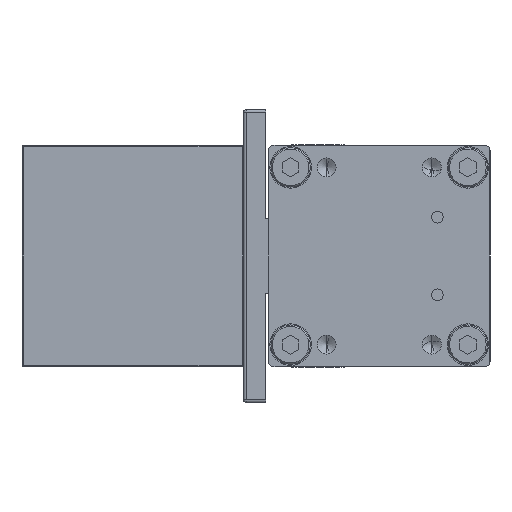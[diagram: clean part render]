
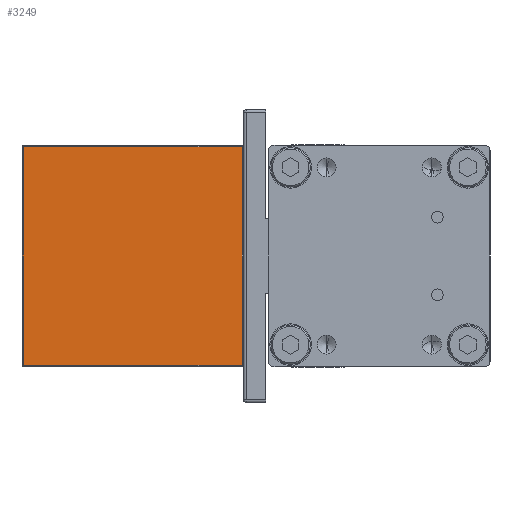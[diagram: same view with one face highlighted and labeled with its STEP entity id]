
A CAD part, left-side view. The second image highlights one B-rep face of the part: STEP entity #3249.
In plain terms, the highlighted planar face has unit normal (-1, 0, 0) as drawn and (0, 0, 1) by its records, which use the part's own axes.
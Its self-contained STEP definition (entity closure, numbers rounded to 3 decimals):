
#465 = VECTOR ( 'NONE', #4786, 1000. ) ;
#472 = ORIENTED_EDGE ( 'NONE', *, *, #2463, .T. ) ;
#482 = DIRECTION ( 'NONE',  ( 1., 0., 0. ) ) ;
#507 = CARTESIAN_POINT ( 'NONE',  ( 0.5, 0.5, 65. ) ) ;
#905 = VECTOR ( 'NONE', #482, 1000. ) ;
#1099 = DIRECTION ( 'NONE',  ( 0., -1., 0. ) ) ;
#1123 = CARTESIAN_POINT ( 'NONE',  ( 0.5, 79.5, 65. ) ) ;
#1597 = LINE ( 'NONE', #5490, #8167 ) ;
#1853 = ORIENTED_EDGE ( 'NONE', *, *, #4188, .T. ) ;
#2273 = DIRECTION ( 'NONE',  ( -1., 0., 0. ) ) ;
#2334 = EDGE_CURVE ( 'NONE', #9429, #8965, #1597, .T. ) ;
#2404 = ORIENTED_EDGE ( 'NONE', *, *, #4916, .T. ) ;
#2419 = LINE ( 'NONE', #3846, #465 ) ;
#2463 = EDGE_CURVE ( 'NONE', #8965, #7371, #8985, .T. ) ;
#2918 = LINE ( 'NONE', #3744, #4642 ) ;
#3121 = DIRECTION ( 'NONE',  ( -1., 0., 0. ) ) ;
#3176 = FACE_OUTER_BOUND ( 'NONE', #9526, .T. ) ;
#3249 = ADVANCED_FACE ( 'NONE', ( #3176 ), #6800, .F. ) ;
#3744 = CARTESIAN_POINT ( 'NONE',  ( 80., 79.5, 65. ) ) ;
#3846 = CARTESIAN_POINT ( 'NONE',  ( 79.5, 80., 65. ) ) ;
#4132 = CARTESIAN_POINT ( 'NONE',  ( 79.5, 0.5, 65. ) ) ;
#4166 = CARTESIAN_POINT ( 'NONE',  ( 79.5, 79.5, 65. ) ) ;
#4188 = EDGE_CURVE ( 'NONE', #9517, #9429, #2918, .T. ) ;
#4211 = CARTESIAN_POINT ( 'NONE',  ( 80., 0.5, 65. ) ) ;
#4642 = VECTOR ( 'NONE', #2273, 1000. ) ;
#4786 = DIRECTION ( 'NONE',  ( 0., 1., 0. ) ) ;
#4916 = EDGE_CURVE ( 'NONE', #7371, #9517, #2419, .T. ) ;
#5299 = CARTESIAN_POINT ( 'NONE',  ( 80., 40., 65. ) ) ;
#5490 = CARTESIAN_POINT ( 'NONE',  ( 0.5, 40., 65. ) ) ;
#6800 = PLANE ( 'NONE',  #7311 ) ;
#7311 = AXIS2_PLACEMENT_3D ( 'NONE', #5299, #7532, #3121 ) ;
#7371 = VERTEX_POINT ( 'NONE', #4132 ) ;
#7532 = DIRECTION ( 'NONE',  ( 0., 0., -1. ) ) ;
#8167 = VECTOR ( 'NONE', #1099, 1000. ) ;
#8722 = ORIENTED_EDGE ( 'NONE', *, *, #2334, .T. ) ;
#8965 = VERTEX_POINT ( 'NONE', #507 ) ;
#8985 = LINE ( 'NONE', #4211, #905 ) ;
#9429 = VERTEX_POINT ( 'NONE', #1123 ) ;
#9517 = VERTEX_POINT ( 'NONE', #4166 ) ;
#9526 = EDGE_LOOP ( 'NONE', ( #2404, #1853, #8722, #472 ) ) ;
